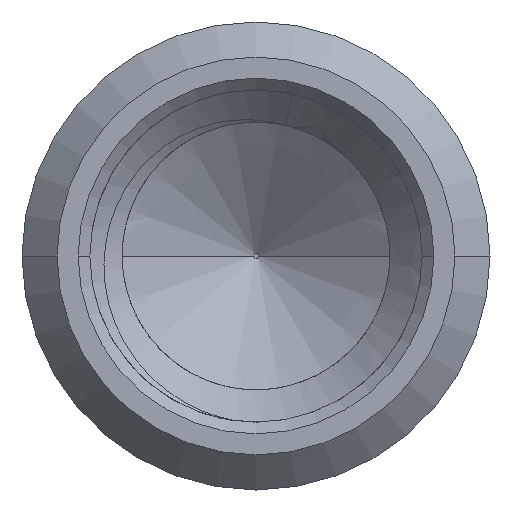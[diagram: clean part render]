
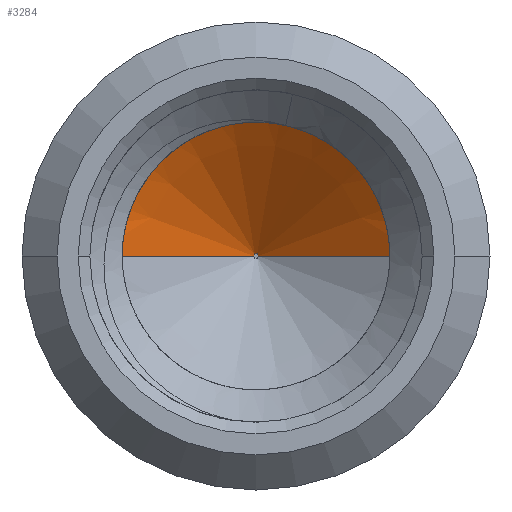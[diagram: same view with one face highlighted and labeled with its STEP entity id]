
A CAD part, front view. The second image highlights one B-rep face of the part: STEP entity #3284.
In plain terms, the highlighted conical face has half-angle 54.462 degrees and reference radius 0.754 mm.
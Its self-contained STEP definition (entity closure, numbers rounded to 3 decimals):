
#1078=CARTESIAN_POINT('',(0.,-31.1,0.));
#1079=DIRECTION('',(0.,1.,0.));
#1080=DIRECTION('',(-1.,0.,0.));
#1081=AXIS2_PLACEMENT_3D('',#1078,#1079,#1080);
#1464=DIRECTION('',(-0.814,-0.581,0.));
#1465=VECTOR('',#1464,1.72);
#1466=CARTESIAN_POINT('',(-0.02,-30.1,
0.));
#1467=LINE('',#1466,#1465);
#1468=CARTESIAN_POINT('',(0.,-30.1,0.));
#1469=DIRECTION('',(0.,1.,0.));
#1470=DIRECTION('',(-1.,0.,0.));
#1471=AXIS2_PLACEMENT_3D('',#1468,#1469,#1470);
#1478=DIRECTION('',(0.814,-0.581,0.));
#1479=VECTOR('',#1478,1.72);
#1480=CARTESIAN_POINT('',(0.02,-30.1,
0.));
#1481=LINE('',#1480,#1479);
#1798=CARTESIAN_POINT('',(-0.02,-30.1,0.));
#1799=CARTESIAN_POINT('',(0.02,-30.1,0.));
#1800=VERTEX_POINT('',#1798);
#1801=VERTEX_POINT('',#1799);
#1802=CARTESIAN_POINT('',(-1.42,-31.1,0.));
#1803=CARTESIAN_POINT('',(1.42,-31.1,0.));
#1804=VERTEX_POINT('',#1802);
#1805=VERTEX_POINT('',#1803);
#3270=CARTESIAN_POINT('',(0.,-30.625,0.));
#3271=DIRECTION('',(0.,-1.,0.));
#3272=DIRECTION('',(0.,0.,-1.));
#3273=AXIS2_PLACEMENT_3D('',#3270,#3271,#3272);
#3274=CONICAL_SURFACE('',#3273,0.754,54.462);
#3276=ORIENTED_EDGE('',*,*,#3275,.F.);
#3278=ORIENTED_EDGE('',*,*,#3277,.T.);
#3279=ORIENTED_EDGE('',*,*,#3109,.T.);
#3281=ORIENTED_EDGE('',*,*,#3280,.F.);
#3282=EDGE_LOOP('',(#3276,#3278,#3279,#3281));
#3283=FACE_OUTER_BOUND('',#3282,.F.);
#3284=ADVANCED_FACE('',(#3283),#3274,.F.);
#1082=CIRCLE('',#1081,1.42);
#1472=CIRCLE('',#1471,0.02);
#3109=EDGE_CURVE('',#1804,#1805,#1082,.T.);
#3275=EDGE_CURVE('',#1800,#1801,#1472,.T.);
#3277=EDGE_CURVE('',#1800,#1804,#1467,.T.);
#3280=EDGE_CURVE('',#1801,#1805,#1481,.T.);
